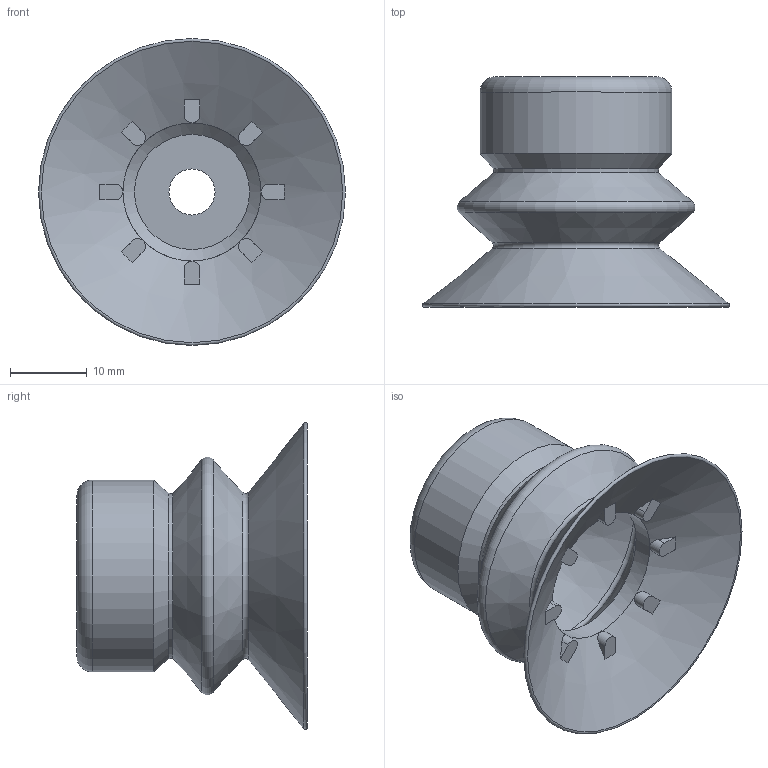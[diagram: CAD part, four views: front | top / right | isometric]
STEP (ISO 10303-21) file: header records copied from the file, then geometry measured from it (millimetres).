
FILE_DESCRIPTION (( 'STEP AP214' ), '1' );
FILE_NAME ('15B.040.004.STEP', '2025-10-23T13:54:01', ( '' ), ( '' ), 'SwSTEP 2.0', 'SolidWorks 2025', '' );
FILE_SCHEMA (( 'AUTOMOTIVE_DESIGN' ));
Length unit declared in the file: millimetre
Products named in the file (1): 15B.040.004
Bounding box: 40 x 30 x 40 mm (x, y, z)
Volume: 8035.4 mm3; surface area: 6531.2 mm2
Topology: 1 solids, 1 shells, 51 faces, 124 edges, 75 vertices
Faces by surface type: plane 26, cylinder 13, cone 7, torus 5
Full cylindrical faces by diameter (mm): 6 x1, 15 x1, 18 x1, 21.5 x1, 25 x1
Entity records: 1921 total; most frequent: CARTESIAN_POINT 760, DIRECTION 252, ORIENTED_EDGE 212, AXIS2_PLACEMENT_3D 110, EDGE_CURVE 106, VERTEX_POINT 74, EDGE_LOOP 70, FACE_OUTER_BOUND 61
